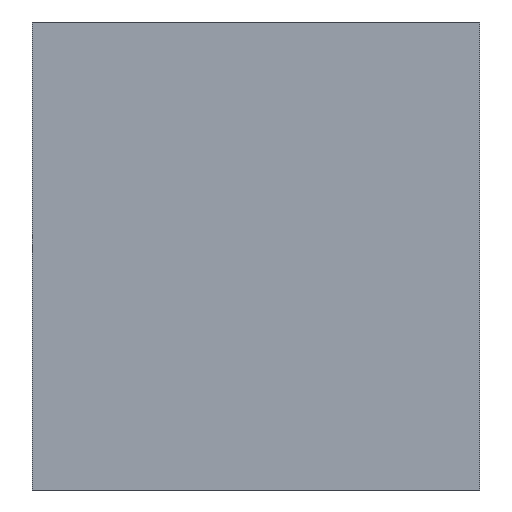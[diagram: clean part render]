
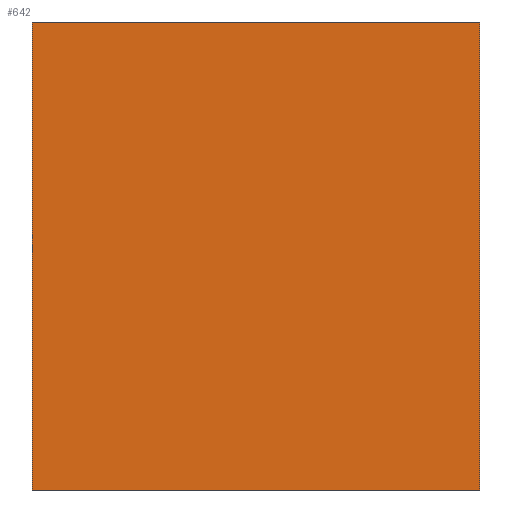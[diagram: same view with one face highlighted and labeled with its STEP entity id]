
A CAD part, front view. The second image highlights one B-rep face of the part: STEP entity #642.
In plain terms, the highlighted planar face has unit normal (0, -1, 0).
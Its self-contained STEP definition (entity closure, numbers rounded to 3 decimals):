
#50 = PLANE('',#51);
#51 = AXIS2_PLACEMENT_3D('',#52,#53,#54);
#52 = CARTESIAN_POINT('',(-5.5,18.5,15.));
#53 = DIRECTION('',(1.,0.,0.));
#54 = DIRECTION('',(0.,0.,1.));
#146 = PLANE('',#147);
#147 = AXIS2_PLACEMENT_3D('',#148,#149,#150);
#148 = CARTESIAN_POINT('',(-5.5,-28.5,26.5));
#149 = DIRECTION('',(0.,0.,1.));
#150 = DIRECTION('',(1.,0.,0.));
#257 = VERTEX_POINT('',#258);
#258 = CARTESIAN_POINT('',(-5.5,-28.5,26.5));
#279 = EDGE_CURVE('',#280,#257,#282,.T.);
#280 = VERTEX_POINT('',#281);
#281 = CARTESIAN_POINT('',(-5.5,-28.5,15.));
#282 = SURFACE_CURVE('',#283,(#287,#294),.PCURVE_S1.);
#283 = LINE('',#284,#285);
#284 = CARTESIAN_POINT('',(-5.5,-28.5,15.));
#285 = VECTOR('',#286,1.);
#286 = DIRECTION('',(0.,0.,1.));
#287 = PCURVE('',#50,#288);
#288 = DEFINITIONAL_REPRESENTATION('',(#289),#293);
#289 = LINE('',#290,#291);
#290 = CARTESIAN_POINT('',(0.,47.));
#291 = VECTOR('',#292,1.);
#292 = DIRECTION('',(1.,0.));
#293 = ( GEOMETRIC_REPRESENTATION_CONTEXT(2) 
PARAMETRIC_REPRESENTATION_CONTEXT() REPRESENTATION_CONTEXT('2D SPACE',''
  ) );
#294 = PCURVE('',#295,#300);
#295 = PLANE('',#296);
#296 = AXIS2_PLACEMENT_3D('',#297,#298,#299);
#297 = CARTESIAN_POINT('',(-5.5,-28.5,15.));
#298 = DIRECTION('',(0.,1.,0.));
#299 = DIRECTION('',(0.,0.,1.));
#300 = DEFINITIONAL_REPRESENTATION('',(#301),#305);
#301 = LINE('',#302,#303);
#302 = CARTESIAN_POINT('',(0.,0.));
#303 = VECTOR('',#304,1.);
#304 = DIRECTION('',(1.,0.));
#305 = ( GEOMETRIC_REPRESENTATION_CONTEXT(2) 
PARAMETRIC_REPRESENTATION_CONTEXT() REPRESENTATION_CONTEXT('2D SPACE',''
  ) );
#323 = PLANE('',#324);
#324 = AXIS2_PLACEMENT_3D('',#325,#326,#327);
#325 = CARTESIAN_POINT('',(-5.5,-28.5,15.));
#326 = DIRECTION('',(0.,0.,1.));
#327 = DIRECTION('',(1.,0.,0.));
#453 = PLANE('',#454);
#454 = AXIS2_PLACEMENT_3D('',#455,#456,#457);
#455 = CARTESIAN_POINT('',(5.5,18.5,15.));
#456 = DIRECTION('',(1.,0.,0.));
#457 = DIRECTION('',(0.,0.,1.));
#567 = EDGE_CURVE('',#280,#568,#570,.T.);
#568 = VERTEX_POINT('',#569);
#569 = CARTESIAN_POINT('',(5.5,-28.5,15.));
#570 = SURFACE_CURVE('',#571,(#575,#582),.PCURVE_S1.);
#571 = LINE('',#572,#573);
#572 = CARTESIAN_POINT('',(-5.5,-28.5,15.));
#573 = VECTOR('',#574,1.);
#574 = DIRECTION('',(1.,0.,0.));
#575 = PCURVE('',#323,#576);
#576 = DEFINITIONAL_REPRESENTATION('',(#577),#581);
#577 = LINE('',#578,#579);
#578 = CARTESIAN_POINT('',(0.,0.));
#579 = VECTOR('',#580,1.);
#580 = DIRECTION('',(1.,0.));
#581 = ( GEOMETRIC_REPRESENTATION_CONTEXT(2) 
PARAMETRIC_REPRESENTATION_CONTEXT() REPRESENTATION_CONTEXT('2D SPACE',''
  ) );
#582 = PCURVE('',#295,#583);
#583 = DEFINITIONAL_REPRESENTATION('',(#584),#588);
#584 = LINE('',#585,#586);
#585 = CARTESIAN_POINT('',(0.,0.));
#586 = VECTOR('',#587,1.);
#587 = DIRECTION('',(0.,1.));
#588 = ( GEOMETRIC_REPRESENTATION_CONTEXT(2) 
PARAMETRIC_REPRESENTATION_CONTEXT() REPRESENTATION_CONTEXT('2D SPACE',''
  ) );
#642 = ADVANCED_FACE('',(#643),#295,.F.);
#643 = FACE_BOUND('',#644,.F.);
#644 = EDGE_LOOP('',(#645,#646,#647,#670));
#645 = ORIENTED_EDGE('',*,*,#567,.F.);
#646 = ORIENTED_EDGE('',*,*,#279,.T.);
#647 = ORIENTED_EDGE('',*,*,#648,.T.);
#648 = EDGE_CURVE('',#257,#649,#651,.T.);
#649 = VERTEX_POINT('',#650);
#650 = CARTESIAN_POINT('',(5.5,-28.5,26.5));
#651 = SURFACE_CURVE('',#652,(#656,#663),.PCURVE_S1.);
#652 = LINE('',#653,#654);
#653 = CARTESIAN_POINT('',(-5.5,-28.5,26.5));
#654 = VECTOR('',#655,1.);
#655 = DIRECTION('',(1.,0.,0.));
#656 = PCURVE('',#295,#657);
#657 = DEFINITIONAL_REPRESENTATION('',(#658),#662);
#658 = LINE('',#659,#660);
#659 = CARTESIAN_POINT('',(11.5,0.));
#660 = VECTOR('',#661,1.);
#661 = DIRECTION('',(0.,1.));
#662 = ( GEOMETRIC_REPRESENTATION_CONTEXT(2) 
PARAMETRIC_REPRESENTATION_CONTEXT() REPRESENTATION_CONTEXT('2D SPACE',''
  ) );
#663 = PCURVE('',#146,#664);
#664 = DEFINITIONAL_REPRESENTATION('',(#665),#669);
#665 = LINE('',#666,#667);
#666 = CARTESIAN_POINT('',(0.,0.));
#667 = VECTOR('',#668,1.);
#668 = DIRECTION('',(1.,0.));
#669 = ( GEOMETRIC_REPRESENTATION_CONTEXT(2) 
PARAMETRIC_REPRESENTATION_CONTEXT() REPRESENTATION_CONTEXT('2D SPACE',''
  ) );
#670 = ORIENTED_EDGE('',*,*,#671,.F.);
#671 = EDGE_CURVE('',#568,#649,#672,.T.);
#672 = SURFACE_CURVE('',#673,(#677,#684),.PCURVE_S1.);
#673 = LINE('',#674,#675);
#674 = CARTESIAN_POINT('',(5.5,-28.5,15.));
#675 = VECTOR('',#676,1.);
#676 = DIRECTION('',(0.,0.,1.));
#677 = PCURVE('',#295,#678);
#678 = DEFINITIONAL_REPRESENTATION('',(#679),#683);
#679 = LINE('',#680,#681);
#680 = CARTESIAN_POINT('',(0.,11.));
#681 = VECTOR('',#682,1.);
#682 = DIRECTION('',(1.,0.));
#683 = ( GEOMETRIC_REPRESENTATION_CONTEXT(2) 
PARAMETRIC_REPRESENTATION_CONTEXT() REPRESENTATION_CONTEXT('2D SPACE',''
  ) );
#684 = PCURVE('',#453,#685);
#685 = DEFINITIONAL_REPRESENTATION('',(#686),#690);
#686 = LINE('',#687,#688);
#687 = CARTESIAN_POINT('',(0.,47.));
#688 = VECTOR('',#689,1.);
#689 = DIRECTION('',(1.,0.));
#690 = ( GEOMETRIC_REPRESENTATION_CONTEXT(2) 
PARAMETRIC_REPRESENTATION_CONTEXT() REPRESENTATION_CONTEXT('2D SPACE',''
  ) );
